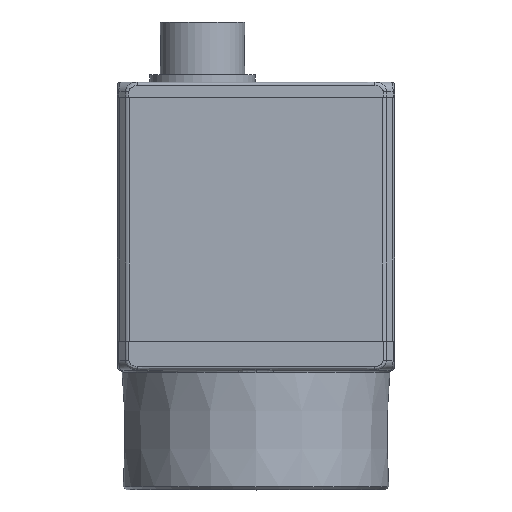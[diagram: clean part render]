
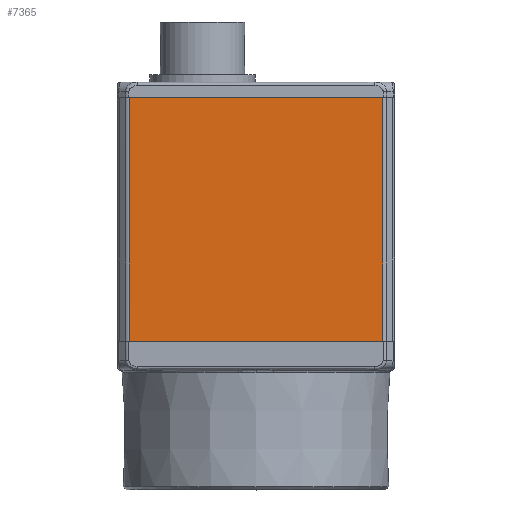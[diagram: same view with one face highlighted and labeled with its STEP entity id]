
A CAD part, top view. The second image highlights one B-rep face of the part: STEP entity #7365.
In plain terms, the highlighted planar face has unit normal (0, 0, 1).
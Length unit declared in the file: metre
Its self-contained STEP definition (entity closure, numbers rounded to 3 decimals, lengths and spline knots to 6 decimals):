
#7365=ADVANCED_FACE('0:1051',(#19209),#19210,.T.);
#9409=EDGE_CURVE('0:6895',#22192,#22193,#22194,.T.);
#9435=EDGE_CURVE('0:6889',#22227,#22193,#22230,.T.);
#13679=EDGE_CURVE('0:7426',#27797,#22192,#27800,.T.);
#13681=EDGE_CURVE('0:7423',#22227,#27797,#27802,.T.);
#19209=FACE_OUTER_BOUND('',#40295,.T.);
#19210=PLANE('',#40296);
#22192=VERTEX_POINT('',#46736);
#22193=VERTEX_POINT('',#46737);
#22194=LINE('',#46738,#46739);
#22227=VERTEX_POINT('',#46863);
#22230=LINE('',#46868,#46869);
#27797=VERTEX_POINT('',#56896);
#27800=LINE('',#56901,#56902);
#27802=LINE('',#56905,#56906);
#40295=EDGE_LOOP('',(#70752,#70753,#70754,#70755));
#40296=AXIS2_PLACEMENT_3D('',#70756,#70757,#70758);
#46736=CARTESIAN_POINT('',(-0.013251,0.013496,0.029014));
#46737=CARTESIAN_POINT('',(-0.013251,-0.012004,0.029014));
#46738=CARTESIAN_POINT('',(-0.013251,0.013496,0.029014));
#46739=VECTOR('',#74447,1.0);
#46863=CARTESIAN_POINT('',(0.013251,-0.012004,0.029014));
#46868=CARTESIAN_POINT('',(0.013251,-0.012004,0.029014));
#46869=VECTOR('',#74449,1.0);
#56896=CARTESIAN_POINT('',(0.013251,0.013496,0.029014));
#56901=CARTESIAN_POINT('',(0.013251,0.013496,0.029014));
#56902=VECTOR('',#78049,1.0);
#56905=CARTESIAN_POINT('',(0.013251,-0.012004,0.029014));
#56906=VECTOR('',#78050,1.0);
#70752=ORIENTED_EDGE('',*,*,#13681,.T.);
#70753=ORIENTED_EDGE('',*,*,#13679,.T.);
#70754=ORIENTED_EDGE('',*,*,#9409,.T.);
#70755=ORIENTED_EDGE('',*,*,#9435,.F.);
#70756=CARTESIAN_POINT('',(0.,0.000746,0.029014));
#70757=DIRECTION('',(0.0,0.,1.0));
#70758=DIRECTION('',(0.0,-1.0,0.));
#74447=DIRECTION('',(0.,-1.0,0.));
#74449=DIRECTION('',(-1.0,0.,0.));
#78049=DIRECTION('',(-1.0,0.,0.));
#78050=DIRECTION('',(0.,1.0,0.));
